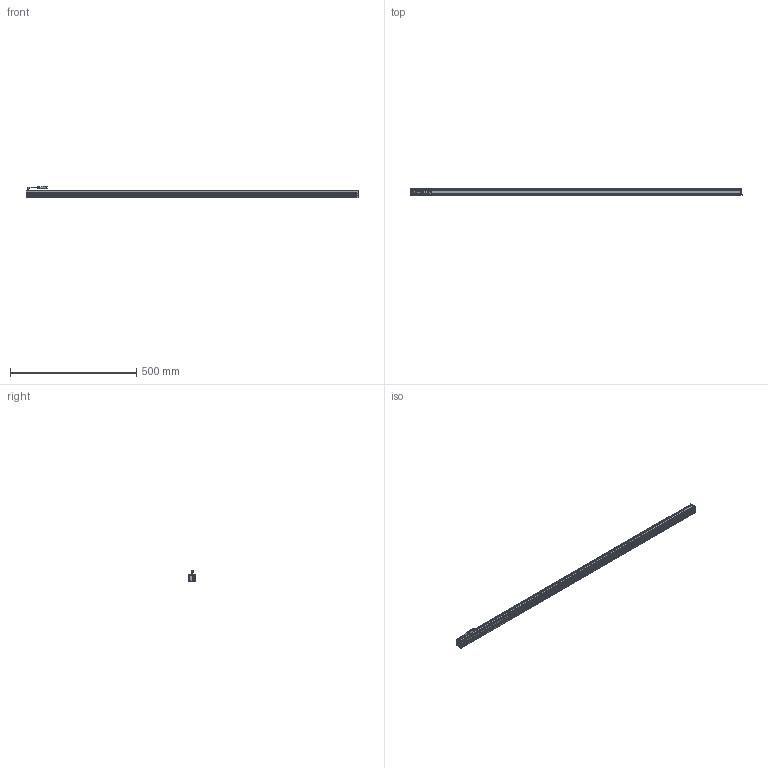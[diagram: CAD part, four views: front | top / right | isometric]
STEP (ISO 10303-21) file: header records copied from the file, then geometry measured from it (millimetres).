
FILE_DESCRIPTION (( 'STEP AP203' ), '1' );
FILE_NAME ('CK-BL131728.STEP', '2026-01-02T09:11:31', ( '' ), ( '' ), 'SwSTEP 2.0', 'SolidWorks 2022', '' );
FILE_SCHEMA (( 'CONFIG_CONTROL_DESIGN' ));
Length unit declared in the file: millimetre
Products named in the file (6): CK-BL131728; 十字沉头螺丝 M2x10; CK-BL131728-001A; CK-BL131728-002A; 光源线-01; CK-BL131728-003A
Assembly tree (11 placements, depth 2):
  CK-BL131728
    CK-BL131728-001A
    CK-BL131728-002A  x2
    CK-BL131728-003A
    光源线-01
    十字沉头螺丝 M2x10  x6
Bounding box: 1317 x 27 x 47.34 mm (x, y, z)
Volume: 419068.7 mm3; surface area: 366477.6 mm2
Topology: 13 solids, 13 shells, 575 faces, 1494 edges, 950 vertices
Faces by surface type: plane 337, cylinder 172, cone 46, bspline 20
Entity records: 13997 total; most frequent: CARTESIAN_POINT 2782, ORIENTED_EDGE 2202, DIRECTION 2163, EDGE_CURVE 1101, LINE 781, VECTOR 781, VERTEX_POINT 714, AXIS2_PLACEMENT_3D 691
